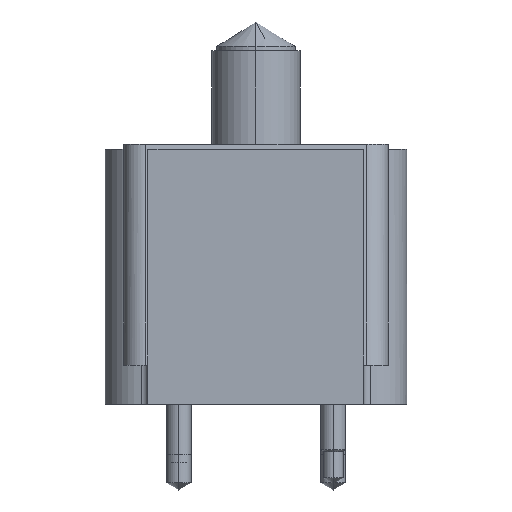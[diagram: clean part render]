
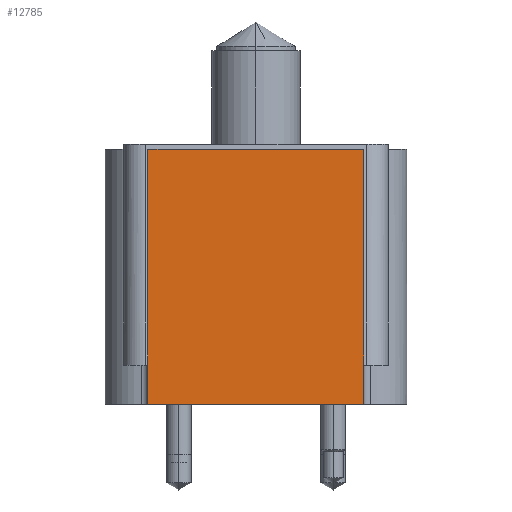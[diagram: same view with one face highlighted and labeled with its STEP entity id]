
A CAD part, left-side view. The second image highlights one B-rep face of the part: STEP entity #12785.
In plain terms, the highlighted planar face has unit normal (-1, 0, 0).
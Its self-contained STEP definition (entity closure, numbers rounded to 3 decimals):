
#12400=CARTESIAN_POINT('',(-84.201,34.988,82.55));
#12401=VERTEX_POINT('',#12400);
#12408=CARTESIAN_POINT('',(-84.201,-34.988,82.55));
#12409=VERTEX_POINT('',#12408);
#12410=CARTESIAN_POINT('',(-84.201,0.0,82.55));
#12411=DIRECTION('',(0.0,1.0,0.0));
#12412=VECTOR('',#12411,1.0);
#12413=LINE('',#12410,#12412);
#12414=EDGE_CURVE('',#12409,#12401,#12413,.T.);
#12740=CARTESIAN_POINT('',(-84.201,34.988,0.0));
#12741=VERTEX_POINT('',#12740);
#12748=CARTESIAN_POINT('',(-84.201,34.988,0.0));
#12749=DIRECTION('',(0.0,0.0,1.0));
#12750=VECTOR('',#12749,1.0);
#12751=LINE('',#12748,#12750);
#12752=EDGE_CURVE('',#12741,#12401,#12751,.T.);
#12762=ORIENTED_EDGE('',*,*,#12752,.F.);
#12763=CARTESIAN_POINT('',(-84.201,-34.988,0.0));
#12764=VERTEX_POINT('',#12763);
#12765=CARTESIAN_POINT('',(-84.201,0.0,0.0));
#12766=DIRECTION('',(0.0,-1.0,0.0));
#12767=VECTOR('',#12766,1.0);
#12768=LINE('',#12765,#12767);
#12769=EDGE_CURVE('',#12741,#12764,#12768,.T.);
#12770=ORIENTED_EDGE('',*,*,#12769,.T.);
#12771=CARTESIAN_POINT('',(-84.201,-34.988,0.0));
#12772=DIRECTION('',(0.0,0.0,-1.0));
#12773=VECTOR('',#12772,1.0);
#12774=LINE('',#12771,#12773);
#12775=EDGE_CURVE('',#12409,#12764,#12774,.T.);
#12776=ORIENTED_EDGE('',*,*,#12775,.F.);
#12777=ORIENTED_EDGE('',*,*,#12414,.T.);
#12778=EDGE_LOOP('',(#12762,#12770,#12776,#12777));
#12779=FACE_OUTER_BOUND('',#12778,.T.);
#12780=CARTESIAN_POINT('',(-84.201,0.0,0.0));
#12781=DIRECTION('',(-1.0,0.0,-0.0));
#12782=DIRECTION('',(-0.0,0.0,1.0));
#12783=AXIS2_PLACEMENT_3D('',#12780,#12781,#12782);
#12784=PLANE('',#12783);
#12785=ADVANCED_FACE('',(#12779),#12784,.T.);
